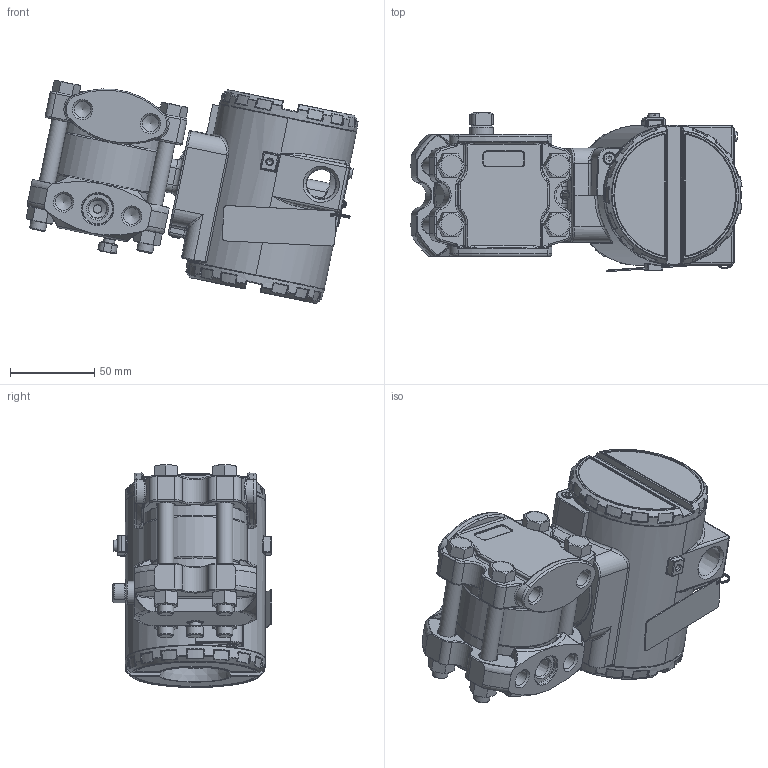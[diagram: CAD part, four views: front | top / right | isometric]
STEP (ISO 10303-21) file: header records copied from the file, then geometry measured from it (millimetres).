
FILE_DESCRIPTION(/* description */ (''),/* implementation_level */ '2;1');
FILE_NAME(/* name */ 'F:\Area\Desenvolvimento_2\Projects\Sensor\projetos\LD30X\montagens 3d - clientes\LD30XM4 1-4NPT Monel purga acima.stp',/* time_stamp */ '2023-01-27T10:04:24-03:00',/* author */ ('inventor02'),/* organization */ (''),/* preprocessor_version */ 'ST-DEVELOPER v17',/* originating_system */ 'Autodesk Inventor 2019',/* authorisation */ '');
FILE_SCHEMA (('CONFIG_CONTROL_DESIGN'));
Length unit declared in the file: millimetre
Products named in the file (30): LD30XM4 1-4NPT Monel purga acima; manometrico FX4 monel purga acima; involucro fx4 apos a usinagem final; 081-C-0500-10 monel barra 7-16 purga M8; 096-C-0014-13 manom reforçado; bujao 1-4NPT; Sangria; Paraf. 3-8 x 16 UNC; Porca 3-8 x 16 UNC; carcaça vazia com tampas e plaqueta; carcaça LD inox sem letras; Subconjunto plaqueta 300; Plaqueta transmissor; Parafuso da Plaqueta; Rebite da Plaqueta; 096-A-0169-03; 101-A-0502-01; Chapa aterramento externo; ISO 1207 - M4 x 8; DIN 915 - M6 x 10; ANSI B18.3.1M - M4x0,7 x 8; Subconjunto tampa com visor aluminio; tampa pintada; VIDRO DO VISOR; oring 41x1 vidro tampa; Trava do vidro da tampa com visor; trava do vidro VH256; Subconjunto tampa sem visor-aluminio; tampa cega 300 pintada p0; 00034775-0
Assembly tree (37 placements, depth 4):
  LD30XM4 1-4NPT Monel purga acima
    manometrico FX4 monel purga acima
      involucro fx4 apos a usinagem final
      081-C-0500-10 monel barra 7-16 purga M8
      096-C-0014-13 manom reforçado
      bujao 1-4NPT
      Sangria
      Paraf. 3-8 x 16 UNC  x4
      Porca 3-8 x 16 UNC  x4
    carcaça vazia com tampas e plaqueta
      carcaça LD inox sem letras
      Subconjunto plaqueta 300
        Plaqueta transmissor
        Parafuso da Plaqueta
        Rebite da Plaqueta
        096-A-0169-03
        101-A-0502-01
      Chapa aterramento externo
      ISO 1207 - M4 x 8
      DIN 915 - M6 x 10
      ANSI B18.3.1M - M4x0,7 x 8  x2
      Subconjunto tampa com visor aluminio
        tampa pintada
        VIDRO DO VISOR
        oring 41x1 vidro tampa
        Trava do vidro da tampa com visor
        trava do vidro VH256
        00034775-0
      Subconjunto tampa sem visor-aluminio
        tampa cega 300 pintada p0
        00034775-0
Bounding box: 197.26 x 94.6 x 132.43 mm (x, y, z)
Volume: 612003 mm3; surface area: 231546.9 mm2
Topology: 32 solids, 32 shells, 2323 faces, 5630 edges, 3338 vertices
Faces by surface type: bspline 588, cylinder 547, plane 458, torus 393, cone 230, sphere 107
Full cylindrical faces by diameter (mm): 2 x2, 2.1 x2, 2.459 x5, 2.642 x1, 2.7 x1, 3 x3, 3.242 x4, 3.5 x4, 3.571 x1, 4 x4, 4.3 x1, 4.4 x1, 4.917 x1, 5 x2, 5.5 x1, 6 x2, 6.647 x1, 7 x5, 7.087 x2, 7.6 x2, 7.798 x4, 8 x1, 8.7 x2, 9.525 x4, 9.728 x8, 10.5 x8, 10.719 x2, 12 x1, 13.8 x1, 14 x1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
Entity records: 83019 total; most frequent: CARTESIAN_POINT 32136, ORIENTED_EDGE 10670, DIRECTION 10250, EDGE_CURVE 5335, AXIS2_PLACEMENT_3D 4504, VERTEX_POINT 3204, CIRCLE 2672, EDGE_LOOP 2341
